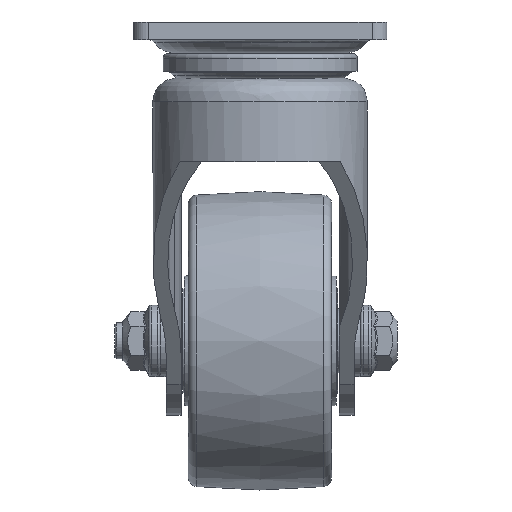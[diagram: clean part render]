
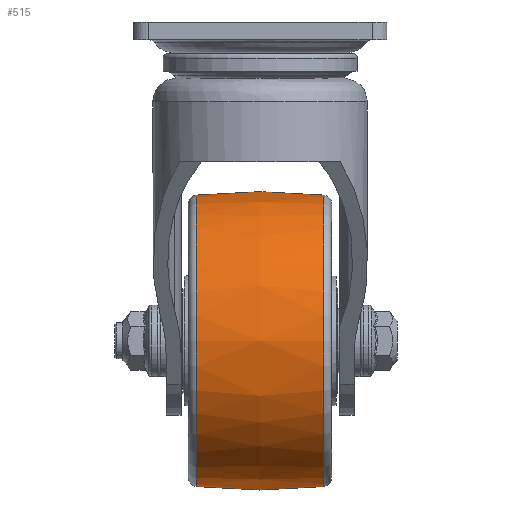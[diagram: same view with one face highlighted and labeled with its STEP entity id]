
A CAD part, left-side view. The second image highlights one B-rep face of the part: STEP entity #515.
In plain terms, the highlighted free-form (B-spline) face has degree [2, 2] with [3, 9] control points.
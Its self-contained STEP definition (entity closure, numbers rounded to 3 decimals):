
#454=CARTESIAN_POINT('',(50.,-21.251,-55.95));
#455=VERTEX_POINT('',#454);
#456=CARTESIAN_POINT('',(50.,-21.251,-104.81));
#457=DIRECTION('',(0.0,-1.0,0.0));
#458=DIRECTION('',(0.0,0.0,1.0));
#459=AXIS2_PLACEMENT_3D('',#456,#457,#458);
#460=CIRCLE('',#459,48.86);
#461=EDGE_CURVE('',#455,#455,#460,.T.);
#466=CARTESIAN_POINT('',(98.86,-21.251,-104.81));
#467=CARTESIAN_POINT('',(101.146,0.068,-104.81));
#468=CARTESIAN_POINT('',(98.86,21.388,-104.81));
#469=CARTESIAN_POINT('',(98.86,-21.251,-55.95));
#470=CARTESIAN_POINT('',(101.146,0.068,-53.664));
#471=CARTESIAN_POINT('',(98.86,21.388,-55.95));
#472=CARTESIAN_POINT('',(50.,-21.251,-55.95));
#473=CARTESIAN_POINT('',(50.,0.068,-53.664));
#474=CARTESIAN_POINT('',(50.,21.388,-55.95));
#475=CARTESIAN_POINT('',(1.14,-21.251,-55.95));
#476=CARTESIAN_POINT('',(-1.146,0.068,-53.664));
#477=CARTESIAN_POINT('',(1.14,21.388,-55.95));
#478=CARTESIAN_POINT('',(1.14,-21.251,-104.81));
#479=CARTESIAN_POINT('',(-1.146,0.068,-104.81));
#480=CARTESIAN_POINT('',(1.14,21.388,-104.81));
#481=CARTESIAN_POINT('',(1.14,-21.251,-153.67));
#482=CARTESIAN_POINT('',(-1.146,0.068,-155.956));
#483=CARTESIAN_POINT('',(1.14,21.388,-153.67));
#484=CARTESIAN_POINT('',(50.,-21.251,-153.67));
#485=CARTESIAN_POINT('',(50.,0.068,-155.956));
#486=CARTESIAN_POINT('',(50.,21.388,-153.67));
#487=CARTESIAN_POINT('',(98.86,-21.251,-153.67));
#488=CARTESIAN_POINT('',(101.146,0.068,-155.956));
#489=CARTESIAN_POINT('',(98.86,21.388,-153.67));
#490=CARTESIAN_POINT('',(98.86,-21.251,-104.81));
#491=CARTESIAN_POINT('',(101.146,0.068,-104.81));
#492=CARTESIAN_POINT('',(98.86,21.388,-104.81));
#500=(BOUNDED_SURFACE()B_SPLINE_SURFACE(2,2,((#466,#469,#472,#475,#478,#481,#484,#487,#490),(#467,#470,#473,#476,#479,#482,#485,#488,#491),(#468,#471,#474,#477,#480,#483,#486,#489,#492)),.UNSPECIFIED.,.F.,.T.,.U.)B_SPLINE_SURFACE_WITH_KNOTS((3,3),(3,2,2,2,3),(-0.107,0.107),(0.0,1.571,3.142,4.712,6.283),.UNSPECIFIED.)GEOMETRIC_REPRESENTATION_ITEM()RATIONAL_B_SPLINE_SURFACE(((1.0,0.707,1.0,0.707,1.0,0.707,1.0,0.707,1.0),(0.994,0.703,0.994,0.703,0.994,0.703,0.994,0.703,0.994),(1.0,0.707,1.0,0.707,1.0,0.707,1.0,0.707,1.0)))REPRESENTATION_ITEM('')SURFACE());
#501=ORIENTED_EDGE('',*,*,#461,.F.);
#502=EDGE_LOOP('',(#501));
#503=FACE_OUTER_BOUND('',#502,.T.);
#504=CARTESIAN_POINT('',(50.,21.388,-55.95));
#505=VERTEX_POINT('',#504);
#506=CARTESIAN_POINT('',(50.,21.388,-104.81));
#507=DIRECTION('',(0.0,-1.0,0.0));
#508=DIRECTION('',(0.0,0.0,1.0));
#509=AXIS2_PLACEMENT_3D('',#506,#507,#508);
#510=CIRCLE('',#509,48.86);
#511=EDGE_CURVE('',#505,#505,#510,.T.);
#512=ORIENTED_EDGE('',*,*,#511,.T.);
#513=EDGE_LOOP('',(#512));
#514=FACE_BOUND('',#513,.T.);
#515=ADVANCED_FACE('',(#503,#514),#500,.T.);
